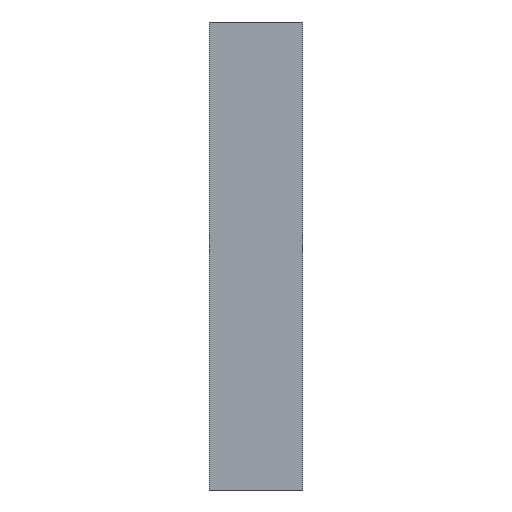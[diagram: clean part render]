
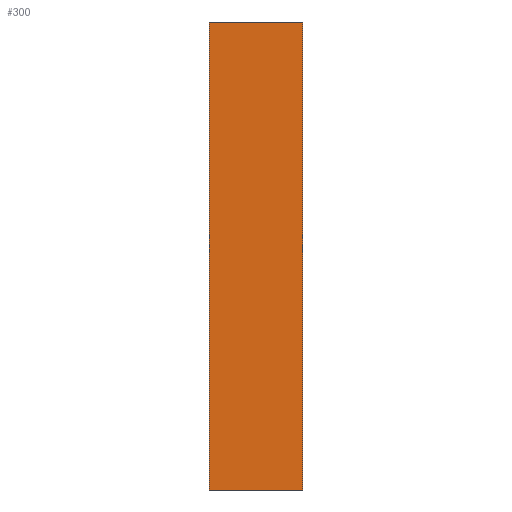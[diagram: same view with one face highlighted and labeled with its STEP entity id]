
A CAD part, left-side view. The second image highlights one B-rep face of the part: STEP entity #300.
In plain terms, the highlighted planar face has unit normal (-1, 0, 0).
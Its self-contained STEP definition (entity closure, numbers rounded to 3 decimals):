
#103 = VERTEX_POINT('',#104);
#104 = CARTESIAN_POINT('',(-4.,0.,-3.8));
#110 = EDGE_CURVE('',#111,#103,#113,.T.);
#111 = VERTEX_POINT('',#112);
#112 = CARTESIAN_POINT('',(-4.,0.,11.2));
#113 = LINE('',#114,#115);
#114 = CARTESIAN_POINT('',(-4.,0.,11.2));
#115 = VECTOR('',#116,1.);
#116 = DIRECTION('',(0.,0.,-1.));
#223 = VERTEX_POINT('',#224);
#224 = CARTESIAN_POINT('',(-4.,-3.,-3.8));
#230 = EDGE_CURVE('',#231,#223,#233,.T.);
#231 = VERTEX_POINT('',#232);
#232 = CARTESIAN_POINT('',(-4.,-3.,11.2));
#233 = LINE('',#234,#235);
#234 = CARTESIAN_POINT('',(-4.,-3.,11.2));
#235 = VECTOR('',#236,1.);
#236 = DIRECTION('',(0.,0.,-1.));
#272 = EDGE_CURVE('',#111,#231,#273,.T.);
#273 = LINE('',#274,#275);
#274 = CARTESIAN_POINT('',(-4.,0.,11.2));
#275 = VECTOR('',#276,1.);
#276 = DIRECTION('',(0.,-1.,0.));
#300 = ADVANCED_FACE('',(#301),#312,.F.);
#301 = FACE_BOUND('',#302,.F.);
#302 = EDGE_LOOP('',(#303,#304,#305,#311));
#303 = ORIENTED_EDGE('',*,*,#272,.T.);
#304 = ORIENTED_EDGE('',*,*,#230,.T.);
#305 = ORIENTED_EDGE('',*,*,#306,.F.);
#306 = EDGE_CURVE('',#103,#223,#307,.T.);
#307 = LINE('',#308,#309);
#308 = CARTESIAN_POINT('',(-4.,0.,-3.8));
#309 = VECTOR('',#310,1.);
#310 = DIRECTION('',(0.,-1.,0.));
#311 = ORIENTED_EDGE('',*,*,#110,.F.);
#312 = PLANE('',#313);
#313 = AXIS2_PLACEMENT_3D('',#314,#315,#316);
#314 = CARTESIAN_POINT('',(-4.,0.,11.2));
#315 = DIRECTION('',(1.,0.,0.));
#316 = DIRECTION('',(0.,0.,-1.));
